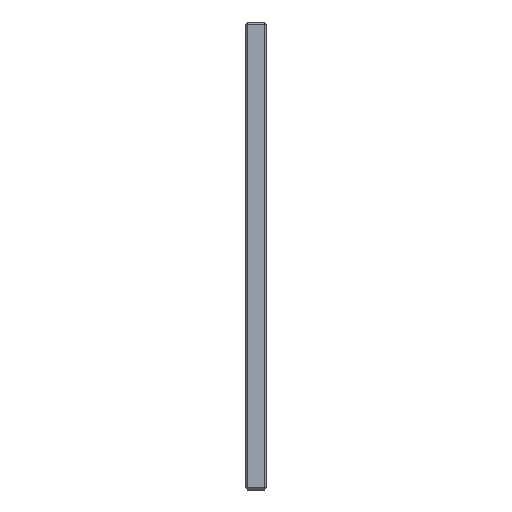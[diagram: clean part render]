
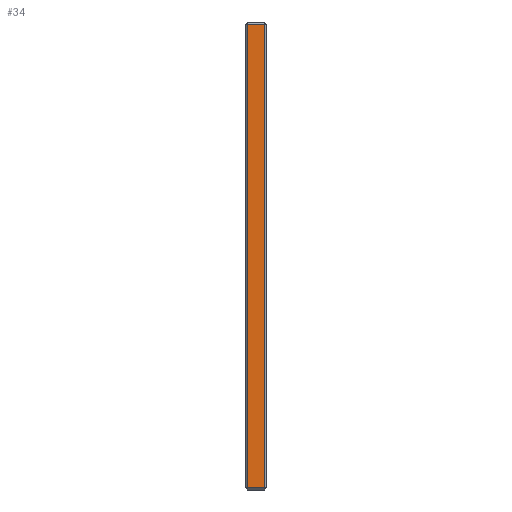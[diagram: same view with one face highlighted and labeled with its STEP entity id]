
A CAD part, left-side view. The second image highlights one B-rep face of the part: STEP entity #34.
In plain terms, the highlighted planar face has unit normal (-1, 0, 0).
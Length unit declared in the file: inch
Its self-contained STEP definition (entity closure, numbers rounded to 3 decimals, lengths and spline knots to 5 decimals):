
#34 = ADVANCED_FACE ( 'Placement Plane', ( #1204 ), #1172, .F. ) ;
#83 = EDGE_CURVE ( 'NONE', #191, #899, #1728, .T. ) ;
#143 = EDGE_CURVE ( 'NONE', #1603, #191, #400, .T. ) ;
#191 = VERTEX_POINT ( 'NONE', #1629 ) ;
#204 = CARTESIAN_POINT ( 'NONE',  ( -6.9375, 0.05, -5.375 ) ) ;
#272 = VECTOR ( 'NONE', #1320, 39.37008 ) ;
#279 = ORIENTED_EDGE ( 'NONE', *, *, #143, .T. ) ;
#400 = LINE ( 'NONE', #1598, #490 ) ;
#434 = ORIENTED_EDGE ( 'NONE', *, *, #1688, .T. ) ;
#440 = ORIENTED_EDGE ( 'NONE', *, *, #1050, .T. ) ;
#490 = VECTOR ( 'NONE', #632, 39.37008 ) ;
#506 = DIRECTION ( 'NONE',  ( 0., 0., -1. ) ) ;
#558 = CARTESIAN_POINT ( 'NONE',  ( -6.9375, 0.5, 5.325 ) ) ;
#563 = CARTESIAN_POINT ( 'NONE',  ( -6.9375, 0.45, 5.325 ) ) ;
#632 = DIRECTION ( 'NONE',  ( 0., -1., 0. ) ) ;
#746 = CARTESIAN_POINT ( 'NONE',  ( -6.9375, 0.45, -5.325 ) ) ;
#763 = LINE ( 'NONE', #558, #821 ) ;
#784 = DIRECTION ( 'NONE',  ( 0., 0., -1. ) ) ;
#803 = ORIENTED_EDGE ( 'NONE', *, *, #83, .T. ) ;
#821 = VECTOR ( 'NONE', #1053, 39.37008 ) ;
#898 = VECTOR ( 'NONE', #784, 39.37008 ) ;
#899 = VERTEX_POINT ( 'NONE', #1261 ) ;
#1050 = EDGE_CURVE ( 'NONE', #1381, #1603, #1135, .T. ) ;
#1053 = DIRECTION ( 'NONE',  ( 0., 1., 0. ) ) ;
#1135 = LINE ( 'NONE', #1327, #898 ) ;
#1172 = PLANE ( 'NONE',  #1718 ) ;
#1177 = DIRECTION ( 'NONE',  ( 1., 0., 0. ) ) ;
#1204 = FACE_OUTER_BOUND ( 'NONE', #1452, .T. ) ;
#1261 = CARTESIAN_POINT ( 'NONE',  ( -6.9375, 0.05, 5.325 ) ) ;
#1320 = DIRECTION ( 'NONE',  ( 0., 0., 1. ) ) ;
#1327 = CARTESIAN_POINT ( 'NONE',  ( -6.9375, 0.45, -5.375 ) ) ;
#1381 = VERTEX_POINT ( 'NONE', #563 ) ;
#1447 = CARTESIAN_POINT ( 'NONE',  ( -6.9375, 0.5, -5.375 ) ) ;
#1452 = EDGE_LOOP ( 'NONE', ( #440, #279, #803, #434 ) ) ;
#1598 = CARTESIAN_POINT ( 'NONE',  ( -6.9375, 0.5, -5.325 ) ) ;
#1603 = VERTEX_POINT ( 'NONE', #746 ) ;
#1629 = CARTESIAN_POINT ( 'NONE',  ( -6.9375, 0.05, -5.325 ) ) ;
#1688 = EDGE_CURVE ( 'NONE', #899, #1381, #763, .T. ) ;
#1718 = AXIS2_PLACEMENT_3D ( 'NONE', #1447, #1177, #506 ) ;
#1728 = LINE ( 'NONE', #204, #272 ) ;
